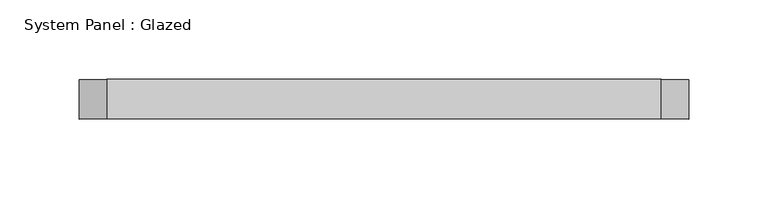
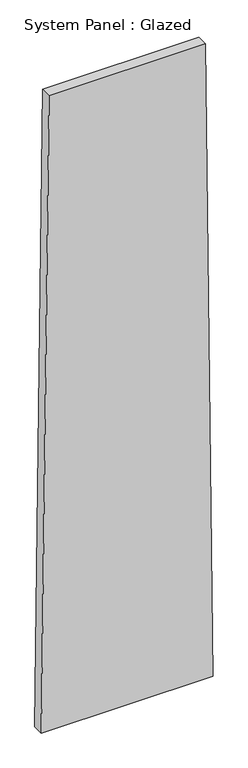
"""IFC4 building model written with IfcOpenShell, lengths in millimetres: plate geometry, System Panel : Glazed."""

import ifcopenshell
import ifcopenshell.guid

model = None  # the IFC model being written
_history = None  # IfcOwnerHistory: only IFC2X3 demands one
_inside = {}  # id of a spatial element -> (the spatial element, [elements in it])
_under = {}  # id of a project, library or spatial element -> (it, [spatial elements below it])
_declared = {}  # id of a project -> (the project, [libraries it declares])
_typed = {}  # id of a type object -> (the type object, [elements of that type])
_made_of = {}  # id of a material, layer set ... -> (it, [elements and type objects made of it])


def new_model(schema):
    """Start an empty IFC model of exactly this schema.

    Asked for "IFC4X3", IfcOpenShell would pick the latest addendum, in which some entities
    have other attributes; the version numbers below select the first issue.
    IFC2X3 requires an IfcOwnerHistory on every rooted entity: one is made here for all.
    """
    global model, _history
    if schema == "IFC4X3":
        model = ifcopenshell.file(schema_version=(4, 3, 0, 0))
    else:
        model = ifcopenshell.file(schema=schema)
    _inside.clear()
    _under.clear()
    _declared.clear()
    _typed.clear()
    _made_of.clear()
    _history = None
    if model.schema == "IFC2X3":
        org = make("IfcOrganization", Name="unknown")
        user = make(
            "IfcPersonAndOrganization",
            ThePerson=make("IfcPerson", FamilyName="unknown"),
            TheOrganization=org,
        )
        app = make(
            "IfcApplication",
            ApplicationDeveloper=org,
            Version="unknown",
            ApplicationFullName="unknown",
            ApplicationIdentifier="unknown",
        )
        _history = make(
            "IfcOwnerHistory",
            OwningUser=user,
            OwningApplication=app,
            ChangeAction="ADDED",
            CreationDate=0,
        )
    return model


def make(cls, **values):
    """One entity of the class cls with the attributes given. An attribute that is None is left unset."""
    return model.create_entity(
        cls, **{name: value for name, value in values.items() if value is not None}
    )


def rooted(cls, **values):
    """An entity with a GlobalId (a new one), such as an element, a storey or a relation."""
    return make(cls, GlobalId=ifcopenshell.guid.new(), OwnerHistory=_history, **values)


def si_unit(unit_type, name, prefix=None):
    """IfcSIUnit, for example si_unit("LENGTHUNIT", "METRE", prefix="MILLI")."""
    return make("IfcSIUnit", UnitType=unit_type, Prefix=prefix, Name=name)


def assignment(units):
    """IfcUnitAssignment: the units of a project."""
    return None if units is None else make("IfcUnitAssignment", Units=units)


def point(xyz):
    """IfcCartesianPoint."""
    return None if xyz is None else make("IfcCartesianPoint", Coordinates=xyz)


def direction(xyz):
    """IfcDirection."""
    return None if xyz is None else make("IfcDirection", DirectionRatios=xyz)


def frame(location, z_axis=None, x_axis=None):
    """IfcAxis2Placement3D, a coordinate frame: its origin and axes. An axis left out is left unset."""
    return make(
        "IfcAxis2Placement3D",
        Location=point(location),
        Axis=direction(z_axis),
        RefDirection=direction(x_axis),
    )


def origin():
    """The frame at (0, 0, 0) with its axes left unset."""
    return frame((0.0, 0.0, 0.0))


def place(relative_to, where):
    """IfcLocalPlacement: puts the frame where relative to a parent placement (None: the world)."""
    return make(
        "IfcLocalPlacement", PlacementRelTo=relative_to, RelativePlacement=where
    )


def context(
    kind, dimensions, precision=None, world=None, true_north=None, identifier=None
):
    """IfcGeometricRepresentationContext, for example the 3D "Model" context."""
    return make(
        "IfcGeometricRepresentationContext",
        ContextIdentifier=identifier,
        ContextType=kind,
        CoordinateSpaceDimension=dimensions,
        Precision=precision,
        WorldCoordinateSystem=world,
        TrueNorth=true_north,
    )


def project(units=None, contexts=None):
    """IfcProject with its units and contexts."""
    return rooted(
        "IfcProject",
        Name="project",
        RepresentationContexts=contexts,
        UnitsInContext=assignment(units),
    )


def spatial(cls, under=None, at=None, **own):
    """A site, building, storey or space (cls), placed at a placement, below another one or the project."""
    s = rooted(cls, ObjectPlacement=at, **own)
    if under is not None:
        _under.setdefault(under.id(), (under, []))[1].append(s)
    return s


def polyline(points):
    """IfcPolyline through the points."""
    return make("IfcPolyline", Points=[point(p) for p in points])


def outline(outer, holes=None, kind="AREA"):
    """IfcArbitraryClosedProfileDef: a profile drawn as a closed curve; with holes, ...WithVoids."""
    if holes is None:
        return make("IfcArbitraryClosedProfileDef", ProfileType=kind, OuterCurve=outer)
    return make(
        "IfcArbitraryProfileDefWithVoids",
        ProfileType=kind,
        OuterCurve=outer,
        InnerCurves=holes,
    )


def extrude(swept, where, along, depth):
    """IfcExtrudedAreaSolid: the profile swept, set in the frame where, extruded along a direction by depth."""
    return make(
        "IfcExtrudedAreaSolid",
        SweptArea=swept,
        Position=where,
        ExtrudedDirection=direction(along),
        Depth=depth,
    )


def shape(context_of_items, identifier, shape_type, items):
    """IfcShapeRepresentation: the items that make up one representation, for example the "Body"."""
    return make(
        "IfcShapeRepresentation",
        ContextOfItems=context_of_items,
        RepresentationIdentifier=identifier,
        RepresentationType=shape_type,
        Items=items,
    )


def source(mapping_origin, context_of_items, identifier, shape_type, items):
    """IfcRepresentationMap: a shape defined once, which mapped items show again and again."""
    return make(
        "IfcRepresentationMap",
        MappingOrigin=mapping_origin,
        MappedRepresentation=shape(context_of_items, identifier, shape_type, items),
    )


def transform(
    local_origin,
    x_axis=None,
    y_axis=None,
    z_axis=None,
    scale=None,
    scale2=None,
    scale3=None,
    uniform=True,
):
    """IfcCartesianTransformationOperator3D, or its non-uniform kind. x_axis, y_axis, z_axis: its Axis1, 2, 3."""
    if uniform:
        return make(
            "IfcCartesianTransformationOperator3D",
            Axis1=direction(x_axis),
            Axis2=direction(y_axis),
            LocalOrigin=point(local_origin),
            Scale=scale,
            Axis3=direction(z_axis),
        )
    return make(
        "IfcCartesianTransformationOperator3DnonUniform",
        Axis1=direction(x_axis),
        Axis2=direction(y_axis),
        LocalOrigin=point(local_origin),
        Scale=scale,
        Axis3=direction(z_axis),
        Scale2=scale2,
        Scale3=scale3,
    )


def mapped(mapping_source, mapping_target):
    """IfcMappedItem: shows the shape of a source again, moved by a transform."""
    return make(
        "IfcMappedItem", MappingSource=mapping_source, MappingTarget=mapping_target
    )


def made_of(thing, what):
    """Note that an element or type object is made of a material, layer set ...; save() writes the relation."""
    if what is not None:
        _made_of.setdefault(what.id(), (what, []))[1].append(thing)
    return thing


def element(
    cls,
    number,
    at=None,
    inside=None,
    cuts=None,
    type_object=None,
    material=None,
    context=None,
    identifier="Body",
    shape_type=None,
    held_by="IfcProductDefinitionShape",
    body=None,
    shapes=None,
    **own,
):
    """One element of the class cls, such as IfcWall. Its Tag is "e" and its number.

    at: its placement. inside: the storey or other place that contains it. cuts: it is an
    opening in that element (IfcRelVoidsElement). A single representation is given by context,
    identifier, shape_type and body (its items); several are given by shapes. held_by: the class
    of the entity that holds the representations. save() writes the other relations.
    """
    e = rooted(cls, Tag="e%d" % number, ObjectPlacement=at, **own)
    if body is not None:
        shapes = [shape(context, identifier, shape_type, body)]
    if shapes is not None:
        e.Representation = make(held_by, Representations=shapes)
    if inside is not None:
        _inside.setdefault(inside.id(), (inside, []))[1].append(e)
    if cuts is not None:
        rooted(
            "IfcRelVoidsElement", RelatingBuildingElement=cuts, RelatedOpeningElement=e
        )
    if type_object is not None:
        _typed.setdefault(type_object.id(), (type_object, []))[1].append(e)
    return made_of(e, material)


def aggregate(whole, parts):
    """IfcRelAggregates: a whole, such as a stair, and the parts it consists of."""
    return rooted("IfcRelAggregates", RelatingObject=whole, RelatedObjects=parts)


def save(model, path):
    """Write the relations noted so far, then the file.

    IfcRelAggregates (storeys below a building ...), IfcRelContainedInSpatialStructure (elements
    in a storey), IfcRelDefinesByType, IfcRelAssociatesMaterial and IfcRelDeclares: one each for
    every whole, place, type object, material and project.
    """
    for whole, parts in _under.values():
        aggregate(whole, parts)
    for where, things in _inside.values():
        rooted(
            "IfcRelContainedInSpatialStructure",
            RelatedElements=things,
            RelatingStructure=where,
        )
    for kind, things in _typed.values():
        rooted("IfcRelDefinesByType", RelatedObjects=things, RelatingType=kind)
    for what, things in _made_of.values():
        rooted("IfcRelAssociatesMaterial", RelatedObjects=things, RelatingMaterial=what)
    for by, libraries in _declared.values():
        rooted("IfcRelDeclares", RelatingContext=by, RelatedDefinitions=libraries)
    model.write(path)


def system_panel_glazed_7fea05ff(model_context):
    return source(origin(), model_context, "Body", "SweptSolid", [
        extrude(outline(polyline([(0.0, -192.2080259), (0.0, 192.2080259), (1499.9015911, 175.025995), (1499.9015911, -175.0261447), (0.0, -192.2080259)])), frame((0.0, -49.5, 0.0), z_axis=(0.0, 1.0, 0.0), x_axis=(0.0, 0.0, 1.0)), (0.0, 0.0, 1.0), 25.0),
    ])


if __name__ == "__main__":
    model = new_model("IFC4")
    model_context = context("Model", 3, world=origin())
    ifc_project = project(units=[si_unit("LENGTHUNIT", "METRE", prefix="MILLI")], contexts=[model_context])
    site = spatial("IfcSite", under=ifc_project)
    building = spatial("IfcBuilding", under=site)
    placement = place(None, origin())
    system_panel_glazed_shape = system_panel_glazed_7fea05ff(model_context)
    element("IfcPlate", 1, ObjectType="System Panel : Glazed", at=placement, inside=building, context=model_context, shape_type="MappedRepresentation", body=[
        mapped(system_panel_glazed_shape, transform((0.0, 0.0, 0.0), x_axis=(1.0, 0.0, 0.0), y_axis=(0.0, 1.0, 0.0), z_axis=(0.0, 0.0, 1.0))),
    ])
    save(model, "model.ifc")
